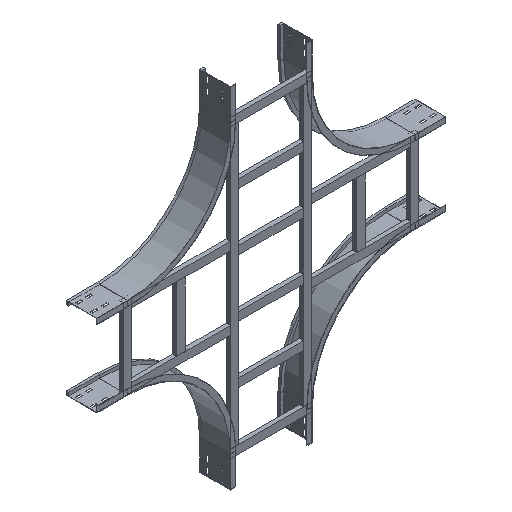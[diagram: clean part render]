
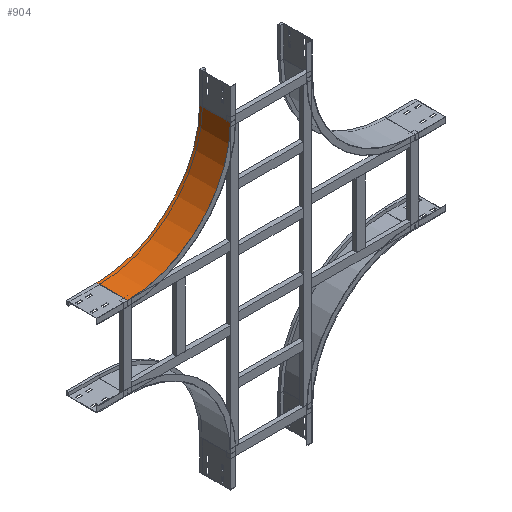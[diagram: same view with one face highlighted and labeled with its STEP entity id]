
A CAD part, isometric view. The second image highlights one B-rep face of the part: STEP entity #904.
In plain terms, the highlighted cylindrical face has radius 500 mm (diameter 1000 mm), a partial arc.
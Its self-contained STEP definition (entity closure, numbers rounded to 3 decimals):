
#43 = AXIS2_PLACEMENT_3D ( 'NONE', #2890, #661, #2241 ) ;
#137 = CARTESIAN_POINT ( 'NONE',  ( 0., 150., -150. ) ) ;
#186 = VECTOR ( 'NONE', #632, 1000. ) ;
#259 = CARTESIAN_POINT ( 'NONE',  ( 0., 0., -150. ) ) ;
#301 = CARTESIAN_POINT ( 'NONE',  ( 500., 150., -150. ) ) ;
#347 = DIRECTION ( 'NONE',  ( 0., -1., 0. ) ) ;
#349 = DIRECTION ( 'NONE',  ( -1., 0., 0. ) ) ;
#388 = EDGE_CURVE ( 'NONE', #420, #1116, #1592, .T. ) ;
#420 = VERTEX_POINT ( 'NONE', #137 ) ;
#523 = CARTESIAN_POINT ( 'NONE',  ( 500., 0., -650. ) ) ;
#527 = VERTEX_POINT ( 'NONE', #2300 ) ;
#632 = DIRECTION ( 'NONE',  ( 0., 1., 0. ) ) ;
#650 = EDGE_CURVE ( 'NONE', #1904, #1116, #1414, .T. ) ;
#661 = DIRECTION ( 'NONE',  ( 0., -1., 0. ) ) ;
#771 = ORIENTED_EDGE ( 'NONE', *, *, #650, .T. ) ;
#826 = AXIS2_PLACEMENT_3D ( 'NONE', #301, #1926, #349 ) ;
#904 = ADVANCED_FACE ( 'NONE', ( #1263 ), #2438, .F. ) ;
#910 = LINE ( 'NONE', #259, #186 ) ;
#1062 = ORIENTED_EDGE ( 'NONE', *, *, #2047, .F. ) ;
#1116 = VERTEX_POINT ( 'NONE', #2130 ) ;
#1245 = DIRECTION ( 'NONE',  ( 0., 0., -1. ) ) ;
#1263 = FACE_OUTER_BOUND ( 'NONE', #1841, .T. ) ;
#1299 = VECTOR ( 'NONE', #1657, 1000. ) ;
#1308 = CIRCLE ( 'NONE', #43, 500. ) ;
#1412 = ORIENTED_EDGE ( 'NONE', *, *, #2051, .T. ) ;
#1414 = LINE ( 'NONE', #523, #1299 ) ;
#1485 = AXIS2_PLACEMENT_3D ( 'NONE', #2378, #347, #1245 ) ;
#1592 = CIRCLE ( 'NONE', #826, 500. ) ;
#1657 = DIRECTION ( 'NONE',  ( 0., 1., 0. ) ) ;
#1841 = EDGE_LOOP ( 'NONE', ( #1947, #1062, #1412, #771 ) ) ;
#1904 = VERTEX_POINT ( 'NONE', #2367 ) ;
#1926 = DIRECTION ( 'NONE',  ( 0., -1., 0. ) ) ;
#1947 = ORIENTED_EDGE ( 'NONE', *, *, #388, .F. ) ;
#2047 = EDGE_CURVE ( 'NONE', #527, #420, #910, .T. ) ;
#2051 = EDGE_CURVE ( 'NONE', #527, #1904, #1308, .T. ) ;
#2130 = CARTESIAN_POINT ( 'NONE',  ( 500., 150., -650. ) ) ;
#2241 = DIRECTION ( 'NONE',  ( -1., 0., 0. ) ) ;
#2300 = CARTESIAN_POINT ( 'NONE',  ( 0., 0., -150. ) ) ;
#2367 = CARTESIAN_POINT ( 'NONE',  ( 500., 0., -650. ) ) ;
#2378 = CARTESIAN_POINT ( 'NONE',  ( 500., 0., -150. ) ) ;
#2438 = CYLINDRICAL_SURFACE ( 'NONE', #1485, 500. ) ;
#2890 = CARTESIAN_POINT ( 'NONE',  ( 500., 0., -150. ) ) ;
